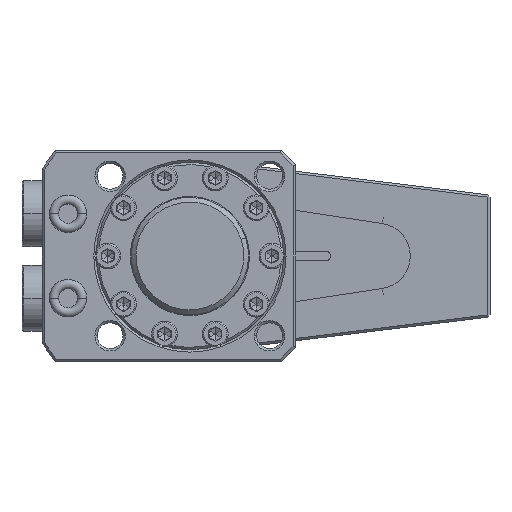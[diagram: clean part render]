
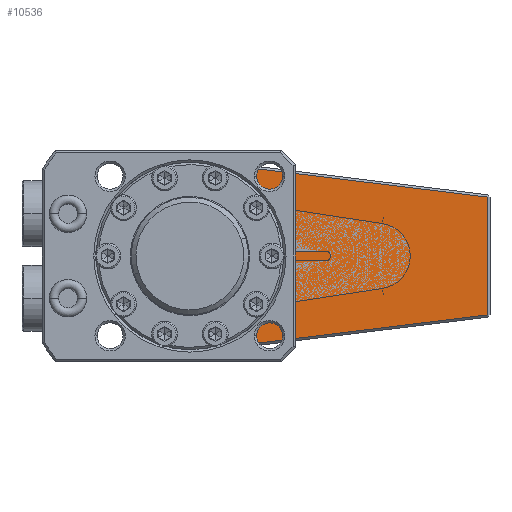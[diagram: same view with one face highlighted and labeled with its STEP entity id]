
A CAD part, front view. The second image highlights one B-rep face of the part: STEP entity #10536.
In plain terms, the highlighted planar face has unit normal (0, -1, 0).
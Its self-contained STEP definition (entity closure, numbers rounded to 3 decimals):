
#6765=DIRECTION('',(1.,0.,0.));
#6766=VECTOR('',#6765,10.824);
#6767=CARTESIAN_POINT('',(-20.5,-9.5,1.));
#6768=LINE('',#6767,#6766);
#6769=DIRECTION('',(0.,0.,-1.));
#6770=VECTOR('',#6769,10.5);
#6771=CARTESIAN_POINT('',(-20.5,-9.5,11.5));
#6772=LINE('',#6771,#6770);
#6773=DIRECTION('',(-0.707,0.,-0.707));
#6774=VECTOR('',#6773,1.414);
#6775=CARTESIAN_POINT('',(-19.5,-9.5,12.5));
#6776=LINE('',#6775,#6774);
#6777=DIRECTION('',(-1.,0.,0.));
#6778=VECTOR('',#6777,15.);
#6779=CARTESIAN_POINT('',(-4.5,-9.5,12.5));
#6780=LINE('',#6779,#6778);
#6781=DIRECTION('',(0.,0.,-1.));
#6782=VECTOR('',#6781,7.);
#6783=CARTESIAN_POINT('',(-4.5,-9.5,19.5));
#6784=LINE('',#6783,#6782);
#6785=DIRECTION('',(-1.,0.,0.));
#6786=VECTOR('',#6785,11.469);
#6787=CARTESIAN_POINT('',(6.969,-9.5,19.5));
#6788=LINE('',#6787,#6786);
#6789=DIRECTION('',(-0.993,0.,0.122));
#6790=VECTOR('',#6789,56.955);
#6791=CARTESIAN_POINT('',(63.5,-9.5,12.558));
#6792=LINE('',#6791,#6790);
#6793=DIRECTION('',(0.,0.,1.));
#6794=VECTOR('',#6793,25.115);
#6795=CARTESIAN_POINT('',(63.5,-9.5,-12.558));
#6796=LINE('',#6795,#6794);
#6797=DIRECTION('',(0.993,0.,0.122));
#6798=VECTOR('',#6797,56.955);
#6799=CARTESIAN_POINT('',(6.969,-9.5,-19.5));
#6800=LINE('',#6799,#6798);
#6801=DIRECTION('',(1.,0.,0.));
#6802=VECTOR('',#6801,11.469);
#6803=CARTESIAN_POINT('',(-4.5,-9.5,-19.5));
#6804=LINE('',#6803,#6802);
#6805=DIRECTION('',(0.,0.,-1.));
#6806=VECTOR('',#6805,7.);
#6807=CARTESIAN_POINT('',(-4.5,-9.5,-12.5));
#6808=LINE('',#6807,#6806);
#6809=DIRECTION('',(1.,0.,0.));
#6810=VECTOR('',#6809,15.);
#6811=CARTESIAN_POINT('',(-19.5,-9.5,-12.5));
#6812=LINE('',#6811,#6810);
#6813=DIRECTION('',(0.707,0.,-0.707));
#6814=VECTOR('',#6813,1.414);
#6815=CARTESIAN_POINT('',(-20.5,-9.5,-11.5));
#6816=LINE('',#6815,#6814);
#6817=DIRECTION('',(0.,0.,-1.));
#6818=VECTOR('',#6817,10.5);
#6819=CARTESIAN_POINT('',(-20.5,-9.5,-1.));
#6820=LINE('',#6819,#6818);
#6821=DIRECTION('',(1.,0.,0.));
#6822=VECTOR('',#6821,10.824);
#6823=CARTESIAN_POINT('',(-20.5,-9.5,-1.));
#6824=LINE('',#6823,#6822);
#6830=CARTESIAN_POINT('',(0.,-9.5,0.));
#6831=DIRECTION('',(0.,1.,0.));
#6832=DIRECTION('',(-0.995,0.,0.103));
#6833=AXIS2_PLACEMENT_3D('',#6830,#6831,#6832);
#6939=CARTESIAN_POINT('',(-9.676,-9.5,
-1.));
#7239=CARTESIAN_POINT('',(-9.676,-9.5,
1.));
#10188=CARTESIAN_POINT('',(-19.5,-9.5,12.5));
#10190=VERTEX_POINT('',#10188);
#10194=CARTESIAN_POINT('',(-4.5,-9.5,12.5));
#10195=VERTEX_POINT('',#10194);
#10200=CARTESIAN_POINT('',(63.5,-9.5,-12.558));
#10201=CARTESIAN_POINT('',(63.5,-9.5,12.558));
#10202=VERTEX_POINT('',#10200);
#10203=VERTEX_POINT('',#10201);
#10213=CARTESIAN_POINT('',(-19.5,-9.5,-12.5));
#10215=VERTEX_POINT('',#10213);
#10216=CARTESIAN_POINT('',(-4.5,-9.5,-12.5));
#10217=VERTEX_POINT('',#10216);
#10236=CARTESIAN_POINT('',(-20.5,-9.5,-11.5));
#10238=VERTEX_POINT('',#10236);
#10242=CARTESIAN_POINT('',(-20.5,-9.5,-1.));
#10243=VERTEX_POINT('',#10242);
#10244=CARTESIAN_POINT('',(-20.5,-9.5,1.));
#10246=VERTEX_POINT('',#10244);
#10250=CARTESIAN_POINT('',(-20.5,-9.5,11.5));
#10251=VERTEX_POINT('',#10250);
#10253=VERTEX_POINT('',#7239);
#10254=VERTEX_POINT('',#6939);
#10302=CARTESIAN_POINT('',(-4.5,-9.5,-19.5));
#10303=VERTEX_POINT('',#10302);
#10304=CARTESIAN_POINT('',(6.969,-9.5,-19.5));
#10305=VERTEX_POINT('',#10304);
#10330=CARTESIAN_POINT('',(6.969,-9.5,19.5));
#10331=VERTEX_POINT('',#10330);
#10332=CARTESIAN_POINT('',(-4.5,-9.5,19.5));
#10333=VERTEX_POINT('',#10332);
#10497=CARTESIAN_POINT('',(0.,-9.5,0.));
#10498=DIRECTION('',(0.,1.,0.));
#10499=DIRECTION('',(1.,0.,0.));
#10500=AXIS2_PLACEMENT_3D('',#10497,#10498,#10499);
#10501=PLANE('',#10500);
#10503=ORIENTED_EDGE('',*,*,#10502,.F.);
#10505=ORIENTED_EDGE('',*,*,#10504,.F.);
#10507=ORIENTED_EDGE('',*,*,#10506,.F.);
#10509=ORIENTED_EDGE('',*,*,#10508,.F.);
#10511=ORIENTED_EDGE('',*,*,#10510,.F.);
#10513=ORIENTED_EDGE('',*,*,#10512,.F.);
#10515=ORIENTED_EDGE('',*,*,#10514,.F.);
#10517=ORIENTED_EDGE('',*,*,#10516,.F.);
#10519=ORIENTED_EDGE('',*,*,#10518,.F.);
#10521=ORIENTED_EDGE('',*,*,#10520,.F.);
#10523=ORIENTED_EDGE('',*,*,#10522,.F.);
#10525=ORIENTED_EDGE('',*,*,#10524,.F.);
#10527=ORIENTED_EDGE('',*,*,#10526,.F.);
#10529=ORIENTED_EDGE('',*,*,#10528,.F.);
#10531=ORIENTED_EDGE('',*,*,#10530,.F.);
#10533=ORIENTED_EDGE('',*,*,#10532,.T.);
#10534=EDGE_LOOP('',(#10503,#10505,#10507,#10509,#10511,#10513,#10515,#10517,
#10519,#10521,#10523,#10525,#10527,#10529,#10531,#10533));
#10535=FACE_OUTER_BOUND('',#10534,.F.);
#10536=ADVANCED_FACE('',(#10535),#10501,.F.);
#6834=CIRCLE('',#6833,9.728);
#10502=EDGE_CURVE('',#10253,#10254,#6834,.T.);
#10504=EDGE_CURVE('',#10246,#10253,#6768,.T.);
#10506=EDGE_CURVE('',#10251,#10246,#6772,.T.);
#10508=EDGE_CURVE('',#10190,#10251,#6776,.T.);
#10510=EDGE_CURVE('',#10195,#10190,#6780,.T.);
#10512=EDGE_CURVE('',#10333,#10195,#6784,.T.);
#10514=EDGE_CURVE('',#10331,#10333,#6788,.T.);
#10516=EDGE_CURVE('',#10203,#10331,#6792,.T.);
#10518=EDGE_CURVE('',#10202,#10203,#6796,.T.);
#10520=EDGE_CURVE('',#10305,#10202,#6800,.T.);
#10522=EDGE_CURVE('',#10303,#10305,#6804,.T.);
#10524=EDGE_CURVE('',#10217,#10303,#6808,.T.);
#10526=EDGE_CURVE('',#10215,#10217,#6812,.T.);
#10528=EDGE_CURVE('',#10238,#10215,#6816,.T.);
#10530=EDGE_CURVE('',#10243,#10238,#6820,.T.);
#10532=EDGE_CURVE('',#10243,#10254,#6824,.T.);
